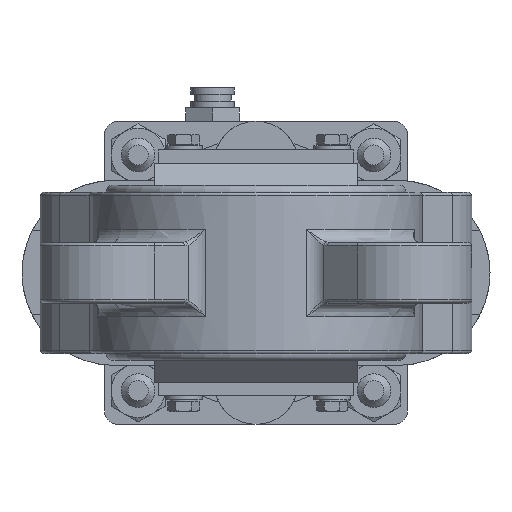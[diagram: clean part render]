
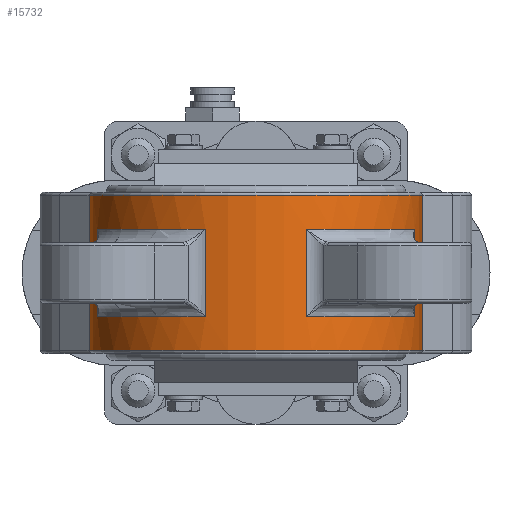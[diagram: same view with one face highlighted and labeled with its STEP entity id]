
A CAD part, front view. The second image highlights one B-rep face of the part: STEP entity #15732.
In plain terms, the highlighted cylindrical face has radius 49.5 mm (diameter 99 mm), a partial arc.
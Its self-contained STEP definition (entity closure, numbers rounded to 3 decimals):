
#683=FACE_BOUND('',#2674,.T.);
#684=FACE_BOUND('',#2675,.T.);
#1697=FACE_OUTER_BOUND('',#2673,.T.);
#2673=EDGE_LOOP('',(#11726,#11727,#11728,#11729));
#2674=EDGE_LOOP('',(#11730,#11731,#11732,#11733));
#2675=EDGE_LOOP('',(#11734,#11735,#11736,#11737));
#3579=LINE('',#24982,#4669);
#3592=LINE('',#25422,#4682);
#3616=LINE('',#25723,#4706);
#3633=LINE('',#25842,#4723);
#3634=LINE('',#25851,#4724);
#3635=LINE('',#25853,#4725);
#4669=VECTOR('',#19693,10.);
#4682=VECTOR('',#19772,10.);
#4706=VECTOR('',#19920,10.);
#4723=VECTOR('',#20041,10.);
#4724=VECTOR('',#20052,10.);
#4725=VECTOR('',#20055,10.);
#5765=CIRCLE('',#16969,49.5);
#5786=CIRCLE('',#17002,49.5);
#5800=CIRCLE('',#17025,49.5);
#5834=CIRCLE('',#17078,49.5);
#5861=CIRCLE('',#17123,49.5);
#5862=CIRCLE('',#17124,49.5);
#6783=VERTEX_POINT('',#24803);
#6794=VERTEX_POINT('',#24944);
#6798=VERTEX_POINT('',#24973);
#6810=VERTEX_POINT('',#25153);
#6813=VERTEX_POINT('',#25229);
#6824=VERTEX_POINT('',#25380);
#6828=VERTEX_POINT('',#25413);
#6840=VERTEX_POINT('',#25603);
#6844=VERTEX_POINT('',#25636);
#6846=VERTEX_POINT('',#25641);
#6869=VERTEX_POINT('',#25722);
#6876=VERTEX_POINT('',#25738);
#8488=EDGE_CURVE('',#6783,#6794,#5765,.T.);
#8491=EDGE_CURVE('',#6798,#6783,#3579,.T.);
#8538=EDGE_CURVE('',#6813,#6824,#5786,.T.);
#8541=EDGE_CURVE('',#6828,#6813,#3592,.T.);
#8569=EDGE_CURVE('',#6846,#6844,#5800,.T.);
#8610=EDGE_CURVE('',#6844,#6869,#3616,.T.);
#8620=EDGE_CURVE('',#6869,#6876,#5834,.T.);
#8662=EDGE_CURVE('',#6876,#6846,#3633,.T.);
#8666=EDGE_CURVE('',#6824,#6840,#3634,.T.);
#8667=EDGE_CURVE('',#6840,#6828,#5861,.T.);
#8668=EDGE_CURVE('',#6794,#6810,#3635,.T.);
#8669=EDGE_CURVE('',#6810,#6798,#5862,.T.);
#11726=ORIENTED_EDGE('',*,*,#8569,.F.);
#11727=ORIENTED_EDGE('',*,*,#8662,.F.);
#11728=ORIENTED_EDGE('',*,*,#8620,.F.);
#11729=ORIENTED_EDGE('',*,*,#8610,.F.);
#11730=ORIENTED_EDGE('',*,*,#8666,.F.);
#11731=ORIENTED_EDGE('',*,*,#8538,.F.);
#11732=ORIENTED_EDGE('',*,*,#8541,.F.);
#11733=ORIENTED_EDGE('',*,*,#8667,.F.);
#11734=ORIENTED_EDGE('',*,*,#8668,.F.);
#11735=ORIENTED_EDGE('',*,*,#8488,.F.);
#11736=ORIENTED_EDGE('',*,*,#8491,.F.);
#11737=ORIENTED_EDGE('',*,*,#8669,.F.);
#14259=CYLINDRICAL_SURFACE('',#17122,49.5);
#15732=ADVANCED_FACE('',(#1697,#683,#684),#14259,.T.);
#16969=AXIS2_PLACEMENT_3D('',#24969,#19688,#19689);
#17002=AXIS2_PLACEMENT_3D('',#25409,#19767,#19768);
#17025=AXIS2_PLACEMENT_3D('',#25643,#19822,#19823);
#17078=AXIS2_PLACEMENT_3D('',#25744,#19945,#19946);
#17122=AXIS2_PLACEMENT_3D('',#25850,#20050,#20051);
#17123=AXIS2_PLACEMENT_3D('',#25852,#20053,#20054);
#17124=AXIS2_PLACEMENT_3D('',#25854,#20056,#20057);
#19688=DIRECTION('center_axis',(0.,0.,1.));
#19689=DIRECTION('ref_axis',(0.707,-0.707,0.));
#19693=DIRECTION('',(0.,0.,-1.));
#19767=DIRECTION('center_axis',(0.,0.,1.));
#19768=DIRECTION('ref_axis',(-0.707,-0.707,0.));
#19772=DIRECTION('',(0.,0.,-1.));
#19822=DIRECTION('center_axis',(0.,0.,1.));
#19823=DIRECTION('ref_axis',(0.,-1.,0.));
#19920=DIRECTION('',(0.,0.,-1.));
#19945=DIRECTION('center_axis',(0.,0.,-1.));
#19946=DIRECTION('ref_axis',(0.,-1.,0.));
#20041=DIRECTION('',(0.,0.,1.));
#20050=DIRECTION('center_axis',(0.,0.,1.));
#20051=DIRECTION('ref_axis',(0.,-1.,0.));
#20052=DIRECTION('',(0.,0.,1.));
#20053=DIRECTION('center_axis',(0.,0.,-1.));
#20054=DIRECTION('ref_axis',(-0.707,-0.707,0.));
#20055=DIRECTION('',(0.,0.,1.));
#20056=DIRECTION('center_axis',(0.,0.,-1.));
#20057=DIRECTION('ref_axis',(0.707,-0.707,0.));
#24803=CARTESIAN_POINT('',(15.046,-47.158,-13.));
#24944=CARTESIAN_POINT('',(47.158,-15.046,-13.));
#24969=CARTESIAN_POINT('Origin',(0.,0.,-13.));
#24973=CARTESIAN_POINT('',(15.046,-47.158,13.));
#24982=CARTESIAN_POINT('',(15.046,-47.158,0.));
#25153=CARTESIAN_POINT('',(47.158,-15.046,13.));
#25229=CARTESIAN_POINT('',(-47.158,-15.046,-13.));
#25380=CARTESIAN_POINT('',(-15.046,-47.158,-13.));
#25409=CARTESIAN_POINT('Origin',(0.,0.,-13.));
#25413=CARTESIAN_POINT('',(-47.158,-15.046,13.));
#25422=CARTESIAN_POINT('',(-47.158,-15.046,0.));
#25603=CARTESIAN_POINT('',(-15.046,-47.158,13.));
#25636=CARTESIAN_POINT('',(47.158,15.046,23.));
#25641=CARTESIAN_POINT('',(-47.158,15.046,23.));
#25643=CARTESIAN_POINT('Origin',(0.,0.,23.));
#25722=CARTESIAN_POINT('',(47.158,15.046,-23.));
#25723=CARTESIAN_POINT('',(47.158,15.046,0.));
#25738=CARTESIAN_POINT('',(-47.158,15.046,-23.));
#25744=CARTESIAN_POINT('Origin',(0.,0.,-23.));
#25842=CARTESIAN_POINT('',(-47.158,15.046,0.));
#25850=CARTESIAN_POINT('Origin',(0.,0.,0.));
#25851=CARTESIAN_POINT('',(-15.046,-47.158,0.));
#25852=CARTESIAN_POINT('Origin',(0.,0.,13.));
#25853=CARTESIAN_POINT('',(47.158,-15.046,0.));
#25854=CARTESIAN_POINT('Origin',(0.,0.,13.));
